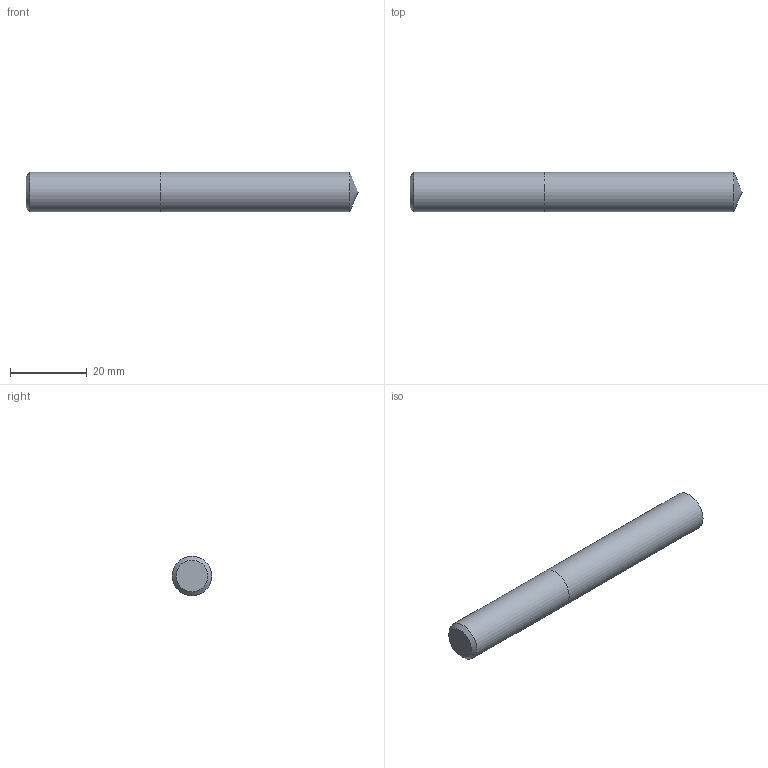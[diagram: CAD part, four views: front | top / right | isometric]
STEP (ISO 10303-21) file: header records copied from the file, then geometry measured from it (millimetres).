
FILE_DESCRIPTION (( 'STEP AP214' ), '1' );
FILE_NAME ('03-2341.STEP', '2022-06-03T06:27:29', ( 'USER' ), ( '' ), 'SwSTEP 2.0', 'SolidWorks 2018', '' );
FILE_SCHEMA (( 'AUTOMOTIVE_DESIGN' ));
Length unit declared in the file: inch
Products named in the file (1): 03-2341
Bounding box: 86.26 x 10.26 x 10.26 mm (x, y, z)
Volume: 7001.2 mm3; surface area: 3029.3 mm2
Topology: 2 solids, 2 shells, 7 faces, 11 edges, 7 vertices
Faces by surface type: plane 3, cylinder 2, cone 2
Full cylindrical faces by diameter (mm): 10.262 x2
Entity records: 214 total; most frequent: DIRECTION 26, CARTESIAN_POINT 18, AXIS2_PLACEMENT_3D 13, ORIENTED_EDGE 10, EDGE_LOOP 10, FACE_OUTER_BOUND 9, DIMENSIONAL_EXPONENTS 7, ADVANCED_FACE 7
